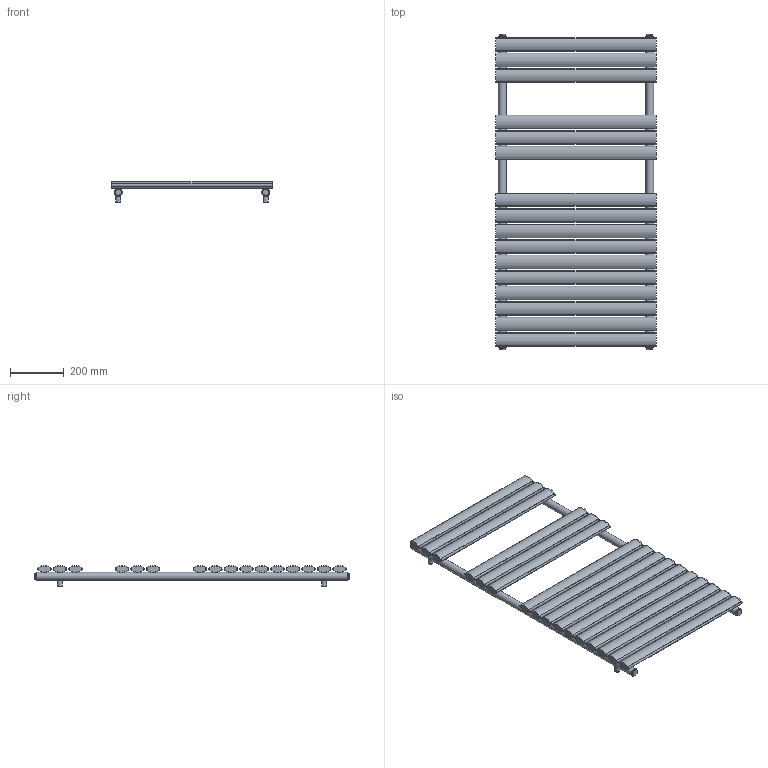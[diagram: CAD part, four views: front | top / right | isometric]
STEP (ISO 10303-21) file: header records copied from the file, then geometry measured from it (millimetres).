
FILE_DESCRIPTION(/* description */ (''),/* implementation_level */ '2;1');
FILE_NAME(/* name */ 'C:\Grzejniki\13DLUXRAD\łazienkowe\NEO\NEO 1164x600.iam.stp',/* time_stamp */ '2016-06-28T17:35:28+02:00',/* author */ ('m.szydziak'),/* organization */ (''),/* preprocessor_version */ 'ST-DEVELOPER v16.5',/* originating_system */ 'Autodesk Inventor 2017',/* authorisation */ '');
FILE_SCHEMA (('AUTOMOTIVE_DESIGN { 1 0 10303 214 3 1 1 }'));
Length unit declared in the file: millimetre
Products named in the file (6): NEO 1164x600; fi30x1,5x1164; 50x25x1,2x600; zaślepka fi30 G0,5inch; uchwyt stały; korek
Assembly tree (30 placements, depth 2):
  NEO 1164x600
    fi30x1,5x1164  x2
    50x25x1,2x600  x16
    zaślepka fi30 G0,5inch  x4
    uchwyt stały  x4
    korek  x4
Bounding box: 600 x 1176 x 76.86 mm (x, y, z)
Volume: 1705672.7 mm3; surface area: 2727966.9 mm2
Topology: 30 solids, 30 shells, 356 faces, 924 edges, 660 vertices
Faces by surface type: cylinder 216, plane 140
Full cylindrical faces by diameter (mm): 5 x32, 5.8 x32, 15 x4, 18 x4, 18.631 x4, 24 x4, 27 x6, 30 x2
Entity records: 3238 total; most frequent: CARTESIAN_POINT 1551, DIRECTION 300, ORIENTED_EDGE 254, AXIS2_PLACEMENT_3D 134, EDGE_CURVE 127, EDGE_LOOP 124, VERTEX_POINT 107, FACE_BOUND 67
